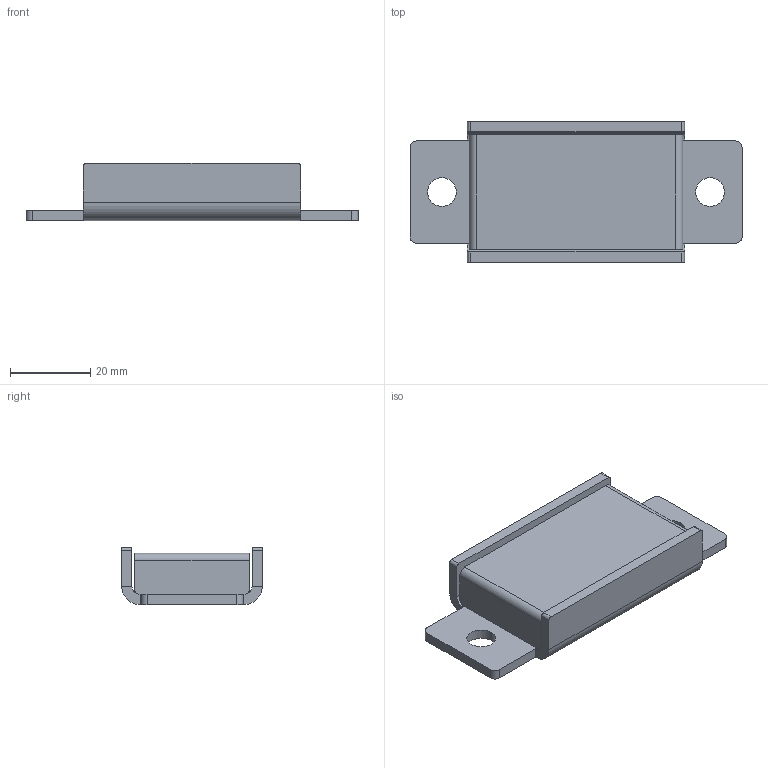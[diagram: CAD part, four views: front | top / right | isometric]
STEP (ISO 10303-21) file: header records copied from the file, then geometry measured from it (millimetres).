
FILE_DESCRIPTION (( 'STEP AP203' ), '1' );
FILE_NAME ('LP2103.STEP', '2018-07-27T14:32:57', ( '' ), ( '' ), 'SwSTEP 2.0', 'SolidWorks 2015', '' );
FILE_SCHEMA (( 'CONFIG_CONTROL_DESIGN' ));
Length unit declared in the file: inch
Products named in the file (1): LP2103
Bounding box: 82.55 x 34.92 x 14.27 mm (x, y, z)
Volume: 10794.9 mm3; surface area: 12292.8 mm2
Topology: 2 solids, 2 shells, 68 faces, 160 edges, 96 vertices
Faces by surface type: plane 44, cylinder 24
Entity records: 2001 total; most frequent: DIRECTION 346, CARTESIAN_POINT 325, ORIENTED_EDGE 320, EDGE_CURVE 160, AXIS2_PLACEMENT_3D 117, LINE 112, VECTOR 112, VERTEX_POINT 96
